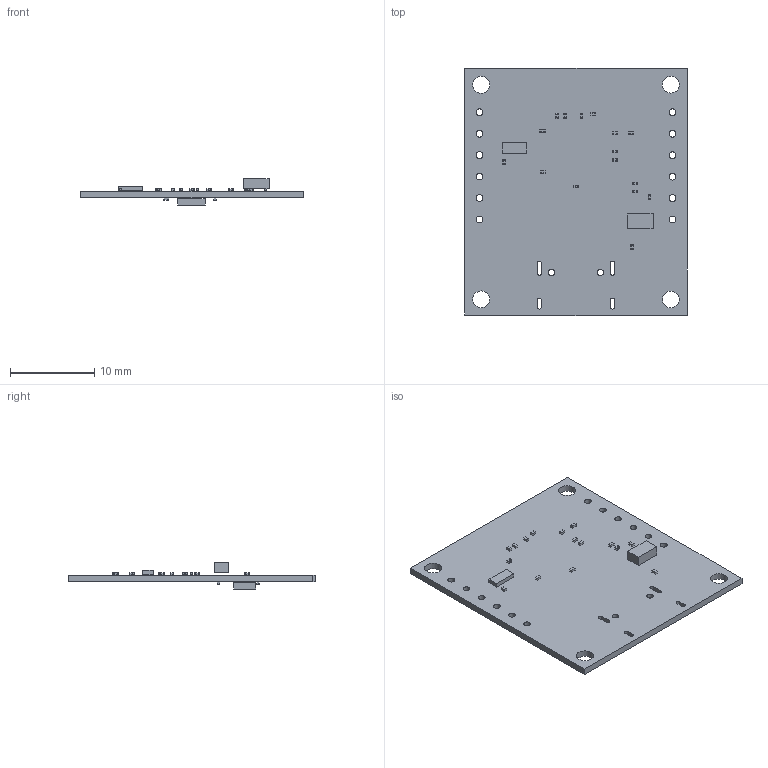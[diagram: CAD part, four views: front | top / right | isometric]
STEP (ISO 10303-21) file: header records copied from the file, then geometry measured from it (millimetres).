
FILE_DESCRIPTION(('Open CASCADE Model'),'2;1');
FILE_NAME('Open CASCADE Shape Model','2025-12-19T17:32:23',('Author'),( 'Open CASCADE'),'Open CASCADE STEP processor 6.8','Open CASCADE 6.8' ,'Unknown');
FILE_SCHEMA(('AUTOMOTIVE_DESIGN { 1 0 10303 214 1 1 1 1 }'));
Length unit declared in the file: millimetre
Products named in the file (33): PCB; Board; U2; 722098312; Extruded; 814919296; Cylinder; C22; User_Library-Chip_Cap_MLCC_0201_(0603); C21; C13; C16; C15; C12; C11; C10; C8; C6; C4; C3; U1; 722090016; C7; C17; C14; C20; C19; C9; Q1; 722098584; C23
Assembly tree (50 placements, depth 4):
  PCB
    Board
    U2
      722098312
        Extruded
      814919296
        Cylinder
    C22
      User_Library-Chip_Cap_MLCC_0201_(0603)
    C21
      User_Library-Chip_Cap_MLCC_0201_(0603)
    C13
      User_Library-Chip_Cap_MLCC_0201_(0603)
    C16
      User_Library-Chip_Cap_MLCC_0201_(0603)
    C15
      User_Library-Chip_Cap_MLCC_0201_(0603)
    C12
      User_Library-Chip_Cap_MLCC_0201_(0603)
    C11
      User_Library-Chip_Cap_MLCC_0201_(0603)
    C10
      User_Library-Chip_Cap_MLCC_0201_(0603)
    C8
      User_Library-Chip_Cap_MLCC_0201_(0603)
    C6
      User_Library-Chip_Cap_MLCC_0201_(0603)
    C4
      User_Library-Chip_Cap_MLCC_0201_(0603)
    C3
      User_Library-Chip_Cap_MLCC_0201_(0603)
    U1
      722090016
        Extruded
    C7
      User_Library-Chip_Cap_MLCC_0201_(0603)
    C17
      User_Library-Chip_Cap_MLCC_0201_(0603)
    C14
      User_Library-Chip_Cap_MLCC_0201_(0603)
    C20
      User_Library-Chip_Cap_MLCC_0201_(0603)
    C19
      User_Library-Chip_Cap_MLCC_0201_(0603)
    C9
      User_Library-Chip_Cap_MLCC_0201_(0603)
    Q1
      722098584
        Extruded
    C23
      User_Library-Chip_Cap_MLCC_0201_(0603)
Bounding box: 26.31 x 29.29 x 3.13 mm (x, y, z)
Volume: 613.2 mm3; surface area: 1721.6 mm2
Topology: 24 solids, 24 shells, 900 faces, 2138 edges, 1172 vertices
Faces by surface type: cylinder 407, plane 341, bspline 152
Full cylindrical faces by diameter (mm): 0.2 x1, 0.762 x2, 0.8 x12, 2 x4
Entity records: 10265 total; most frequent: CARTESIAN_POINT 4133, DIRECTION 1002, ORIENTED_EDGE 516, PCURVE 516, DEFINITIONAL_REPRESENTATION 516, LINE 504, VECTOR 504, EDGE_CURVE 258
